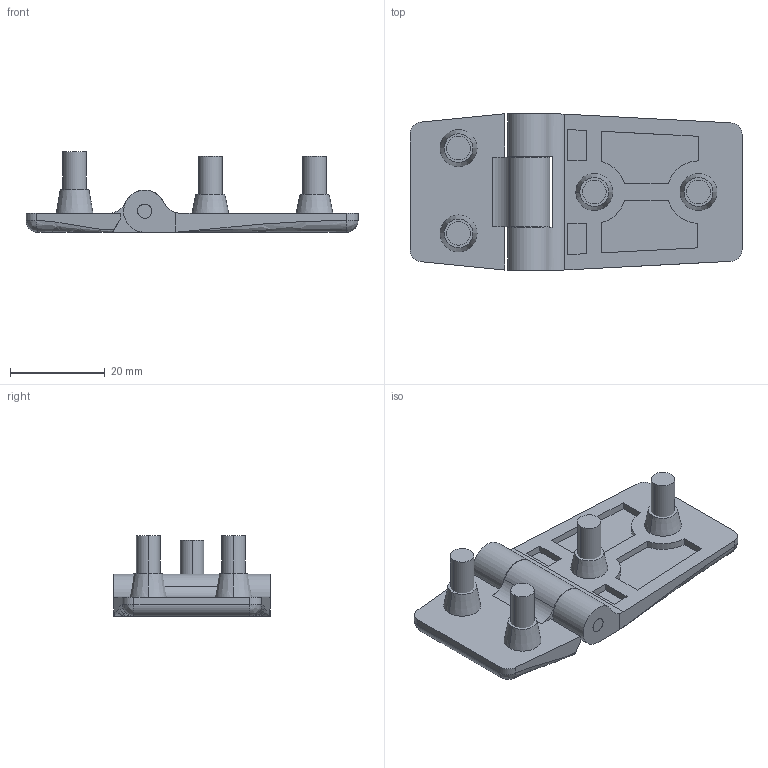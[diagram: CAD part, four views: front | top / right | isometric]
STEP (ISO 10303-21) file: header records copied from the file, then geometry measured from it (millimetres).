
FILE_DESCRIPTION (( 'STEP AP214' ), '1' );
FILE_NAME ('3.ZN1.001.STEP', '2010-02-09T14:42:52', ( 'Rak' ), ( 'ROZTOCZE' ), 'SwSTEP 2.0', 'SolidWorks 2004231', '' );
FILE_SCHEMA (( 'AUTOMOTIVE_DESIGN' ));
Length unit declared in the file: millimetre
Products named in the file (5): 3.ZN1.001.01_Domyœlna_Domyœlna; 3.ZN1.001.03_Domyœlna_Domyœlna; 3.ZN1.001.02_Domyœlna_Domyœlna; 3.ZN1.001; 3.ZN1.001.04_Domyœlna_Domyœlna
Assembly tree (7 placements, depth 2):
  3.ZN1.001
    3.ZN1.001.04_Domyœlna_Domyœlna  x4
    3.ZN1.001.02_Domyœlna_Domyœlna
    3.ZN1.001.01_Domyœlna_Domyœlna
    3.ZN1.001.03_Domyœlna_Domyœlna
Bounding box: 70.1 x 33.04 x 17 mm (x, y, z)
Volume: 10440.5 mm3; surface area: 8308.9 mm2
Topology: 7 solids, 7 shells, 121 faces, 289 edges, 179 vertices
Faces by surface type: plane 56, cylinder 39, cone 18, bspline 8
Entity records: 4650 total; most frequent: CARTESIAN_POINT 745, DIRECTION 555, ORIENTED_EDGE 510, EDGE_CURVE 255, AXIS2_PLACEMENT_3D 205, VERTEX_POINT 167, VECTOR 145, LINE 145
